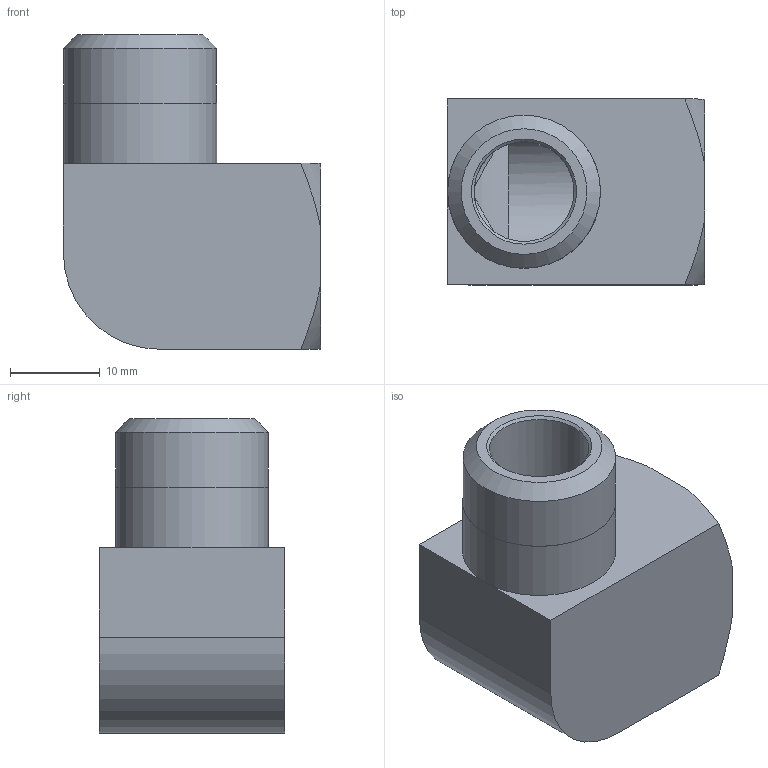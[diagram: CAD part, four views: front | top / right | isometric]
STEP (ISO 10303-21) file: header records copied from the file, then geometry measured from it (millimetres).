
FILE_DESCRIPTION(/* description */ (''),/* implementation_level */ '2;1');
FILE_NAME(/* name */ 'C:/Users/drich/Desktop/SL-38 v1.step',/* time_stamp */ '2020-02-09T11:07:06-06:00',/* author */ (''),/* organization */ (''),/* preprocessor_version */ 'ST-DEVELOPER v18',/* originating_system */ 'Autodesk Translation Framework v8.12.0.6',/* authorisation */ '');
FILE_SCHEMA (('AUTOMOTIVE_DESIGN { 1 0 10303 214 3 1 1 }'));
Length unit declared in the file: inch
Products named in the file (1): SL-38
Bounding box: 28.57 x 20.65 x 34.95 mm (x, y, z)
Volume: 9225.1 mm3; surface area: 5192.6 mm2
Topology: 1 solids, 1 shells, 25 faces, 64 edges, 42 vertices
Faces by surface type: cone 10, plane 9, cylinder 6
Full cylindrical faces by diameter (mm): 11.1 x1, 14.275 x1, 14.3 x1, 16.993 x1, 17.018 x1
Entity records: 866 total; most frequent: CARTESIAN_POINT 227, ORIENTED_EDGE 126, DIRECTION 125, EDGE_CURVE 63, AXIS2_PLACEMENT_3D 51, VERTEX_POINT 42, EDGE_LOOP 29, FACE_OUTER_BOUND 25
